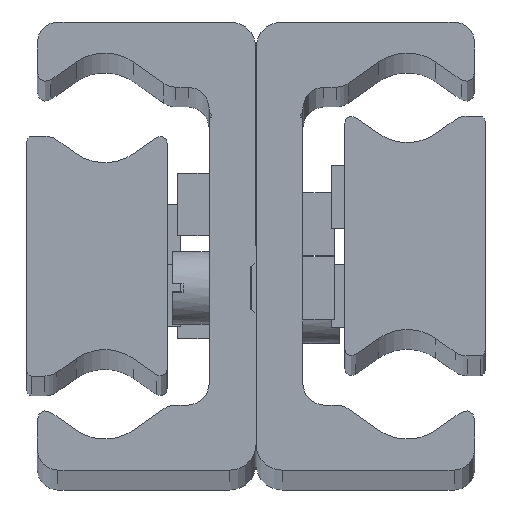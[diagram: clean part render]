
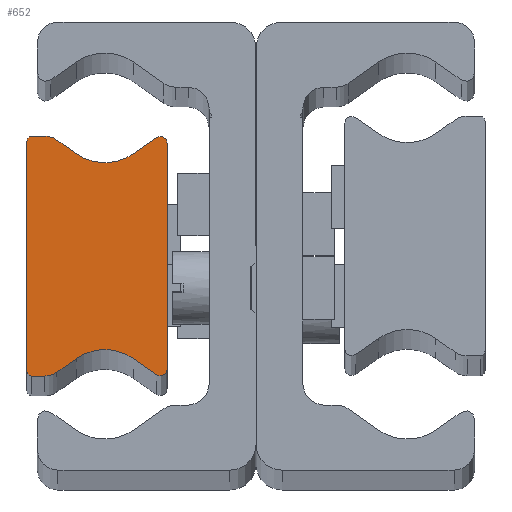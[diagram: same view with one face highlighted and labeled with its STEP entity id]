
A CAD part, top view. The second image highlights one B-rep face of the part: STEP entity #652.
In plain terms, the highlighted planar face has unit normal (0, 0, 1) as drawn and (0, 0, -1) by its records, which use the part's own axes.
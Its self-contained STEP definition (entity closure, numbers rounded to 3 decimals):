
#652 = ADVANCED_FACE( '', ( #1409 ), #1410, .F. );
#1409 = FACE_OUTER_BOUND( '', #2139, .T. );
#1410 = PLANE( '', #2140 );
#2139 = EDGE_LOOP( '', ( #3616, #3617, #3618, #3619, #3620, #3621, #3622, #3623, #3624, #3625, #3626, #3627, #3628, #3629, #3630, #3631 ) );
#2140 = AXIS2_PLACEMENT_3D( '', #3632, #3633, #3634 );
#3616 = ORIENTED_EDGE( '', *, *, #4131, .F. );
#3617 = ORIENTED_EDGE( '', *, *, #3964, .F. );
#3618 = ORIENTED_EDGE( '', *, *, #4190, .F. );
#3619 = ORIENTED_EDGE( '', *, *, #3950, .F. );
#3620 = ORIENTED_EDGE( '', *, *, #3977, .F. );
#3621 = ORIENTED_EDGE( '', *, *, #4032, .T. );
#3622 = ORIENTED_EDGE( '', *, *, #4028, .F. );
#3623 = ORIENTED_EDGE( '', *, *, #3945, .F. );
#3624 = ORIENTED_EDGE( '', *, *, #4119, .F. );
#3625 = ORIENTED_EDGE( '', *, *, #3658, .F. );
#3626 = ORIENTED_EDGE( '', *, *, #3783, .F. );
#3627 = ORIENTED_EDGE( '', *, *, #3918, .T. );
#3628 = ORIENTED_EDGE( '', *, *, #4210, .F. );
#3629 = ORIENTED_EDGE( '', *, *, #3787, .F. );
#3630 = ORIENTED_EDGE( '', *, *, #3941, .F. );
#3631 = ORIENTED_EDGE( '', *, *, #4009, .F. );
#3632 = CARTESIAN_POINT( '', ( 0.5, -11., -1090. ) );
#3633 = DIRECTION( '', ( 0., 0., 1. ) );
#3634 = DIRECTION( '', ( 1., 0., 0. ) );
#3658 = EDGE_CURVE( '', #4224, #4226, #4227, .T. );
#3783 = EDGE_CURVE( '', #4435, #4224, #4437, .T. );
#3787 = EDGE_CURVE( '', #4442, #4444, #4445, .T. );
#3918 = EDGE_CURVE( '', #4435, #4652, #4654, .T. );
#3941 = EDGE_CURVE( '', #4686, #4442, #4688, .T. );
#3945 = EDGE_CURVE( '', #4693, #4695, #4696, .T. );
#3950 = EDGE_CURVE( '', #4702, #4704, #4705, .T. );
#3964 = EDGE_CURVE( '', #4726, #4728, #4729, .T. );
#3977 = EDGE_CURVE( '', #4746, #4702, #4748, .T. );
#4009 = EDGE_CURVE( '', #4796, #4686, #4798, .T. );
#4028 = EDGE_CURVE( '', #4695, #4824, #4825, .T. );
#4032 = EDGE_CURVE( '', #4746, #4824, #4829, .T. );
#4119 = EDGE_CURVE( '', #4226, #4693, #4953, .T. );
#4131 = EDGE_CURVE( '', #4728, #4796, #4970, .T. );
#4190 = EDGE_CURVE( '', #4704, #4726, #5041, .T. );
#4210 = EDGE_CURVE( '', #4444, #4652, #5062, .T. );
#4224 = VERTEX_POINT( '', #5076 );
#4226 = VERTEX_POINT( '', #5079 );
#4227 = CIRCLE( '', #5080, 0.668 );
#4435 = VERTEX_POINT( '', #5333 );
#4437 = LINE( '', #5336, #5337 );
#4442 = VERTEX_POINT( '', #5342 );
#4444 = VERTEX_POINT( '', #5345 );
#4445 = CIRCLE( '', #5346, 2. );
#4652 = VERTEX_POINT( '', #5598 );
#4654 = CIRCLE( '', #5601, 4.763 );
#4686 = VERTEX_POINT( '', #5640 );
#4688 = LINE( '', #5643, #5644 );
#4693 = VERTEX_POINT( '', #5649 );
#4695 = VERTEX_POINT( '', #5652 );
#4696 = CIRCLE( '', #5653, 0.668 );
#4702 = VERTEX_POINT( '', #5660 );
#4704 = VERTEX_POINT( '', #5663 );
#4705 = CIRCLE( '', #5664, 2. );
#4726 = VERTEX_POINT( '', #5686 );
#4728 = VERTEX_POINT( '', #5689 );
#4729 = CIRCLE( '', #5690, 0.5 );
#4746 = VERTEX_POINT( '', #5713 );
#4748 = LINE( '', #5716, #5717 );
#4796 = VERTEX_POINT( '', #5772 );
#4798 = CIRCLE( '', #5775, 0.5 );
#4824 = VERTEX_POINT( '', #5809 );
#4825 = LINE( '', #5810, #5811 );
#4829 = CIRCLE( '', #5816, 4.763 );
#4953 = LINE( '', #5972, #5973 );
#4970 = LINE( '', #5991, #5992 );
#5041 = LINE( '', #6082, #6083 );
#5062 = LINE( '', #6109, #6110 );
#5076 = CARTESIAN_POINT( '', ( 12.449, -11.379, -1090. ) );
#5079 = CARTESIAN_POINT( '', ( 13.5, -10.832, -1090. ) );
#5080 = AXIS2_PLACEMENT_3D( '', #6125, #6126, #6127 );
#5333 = CARTESIAN_POINT( '', ( 10.232, -9.827, -1090. ) );
#5336 = CARTESIAN_POINT( '', ( 10.232, -9.827, -1090. ) );
#5337 = VECTOR( '', #6306, 1000. );
#5342 = CARTESIAN_POINT( '', ( 1.748, -11.5, -1090. ) );
#5345 = CARTESIAN_POINT( '', ( 2.895, -11.138, -1090. ) );
#5346 = AXIS2_PLACEMENT_3D( '', #6311, #6312, #6313 );
#5598 = CARTESIAN_POINT( '', ( 4.768, -9.827, -1090. ) );
#5601 = AXIS2_PLACEMENT_3D( '', #6507, #6508, #6509 );
#5640 = CARTESIAN_POINT( '', ( 0.5, -11.5, -1090. ) );
#5643 = CARTESIAN_POINT( '', ( 0.5, -11.5, -1090. ) );
#5644 = VECTOR( '', #6536, 1000. );
#5649 = CARTESIAN_POINT( '', ( 13.5, 10.832, -1090. ) );
#5652 = CARTESIAN_POINT( '', ( 12.449, 11.379, -1090. ) );
#5653 = AXIS2_PLACEMENT_3D( '', #6541, #6542, #6543 );
#5660 = CARTESIAN_POINT( '', ( 2.895, 11.138, -1090. ) );
#5663 = CARTESIAN_POINT( '', ( 1.748, 11.5, -1090. ) );
#5664 = AXIS2_PLACEMENT_3D( '', #6549, #6550, #6551 );
#5686 = CARTESIAN_POINT( '', ( 0.5, 11.5, -1090. ) );
#5689 = CARTESIAN_POINT( '', ( 0., 11., -1090. ) );
#5690 = AXIS2_PLACEMENT_3D( '', #6575, #6576, #6577 );
#5713 = CARTESIAN_POINT( '', ( 4.768, 9.827, -1090. ) );
#5716 = CARTESIAN_POINT( '', ( 4.768, 9.827, -1090. ) );
#5717 = VECTOR( '', #6591, 1000. );
#5772 = CARTESIAN_POINT( '', ( 0., -11., -1090. ) );
#5775 = AXIS2_PLACEMENT_3D( '', #6636, #6637, #6638 );
#5809 = CARTESIAN_POINT( '', ( 10.232, 9.827, -1090. ) );
#5810 = CARTESIAN_POINT( '', ( 12.449, 11.379, -1090. ) );
#5811 = VECTOR( '', #6653, 1000. );
#5816 = AXIS2_PLACEMENT_3D( '', #6658, #6659, #6660 );
#5972 = CARTESIAN_POINT( '', ( 13.5, -10.832, -1090. ) );
#5973 = VECTOR( '', #6774, 1000. );
#5991 = CARTESIAN_POINT( '', ( 0., 11., -1090. ) );
#5992 = VECTOR( '', #6791, 1000. );
#6082 = CARTESIAN_POINT( '', ( 1.748, 11.5, -1090. ) );
#6083 = VECTOR( '', #6835, 1000. );
#6109 = CARTESIAN_POINT( '', ( 2.895, -11.138, -1090. ) );
#6110 = VECTOR( '', #6847, 1000. );
#6125 = CARTESIAN_POINT( '', ( 12.832, -10.832, -1090. ) );
#6126 = DIRECTION( '', ( 0., 0., 1. ) );
#6127 = DIRECTION( '', ( 1., 0., 0. ) );
#6306 = DIRECTION( '', ( 0.819, -0.574, 0. ) );
#6311 = CARTESIAN_POINT( '', ( 1.748, -9.5, -1090. ) );
#6312 = DIRECTION( '', ( 0., 0., 1. ) );
#6313 = DIRECTION( '', ( 1., 0., 0. ) );
#6507 = CARTESIAN_POINT( '', ( 7.5, -13.729, -1090. ) );
#6508 = DIRECTION( '', ( 0., 0., 1. ) );
#6509 = DIRECTION( '', ( 1., 0., 0. ) );
#6536 = DIRECTION( '', ( 1., 0., 0. ) );
#6541 = CARTESIAN_POINT( '', ( 12.832, 10.832, -1090. ) );
#6542 = DIRECTION( '', ( 0., 0., 1. ) );
#6543 = DIRECTION( '', ( 1., 0., 0. ) );
#6549 = CARTESIAN_POINT( '', ( 1.748, 9.5, -1090. ) );
#6550 = DIRECTION( '', ( 0., 0., 1. ) );
#6551 = DIRECTION( '', ( 1., 0., 0. ) );
#6575 = CARTESIAN_POINT( '', ( 0.5, 11., -1090. ) );
#6576 = DIRECTION( '', ( 0., 0., 1. ) );
#6577 = DIRECTION( '', ( 1., 0., 0. ) );
#6591 = DIRECTION( '', ( -0.819, 0.574, 0. ) );
#6636 = CARTESIAN_POINT( '', ( 0.5, -11., -1090. ) );
#6637 = DIRECTION( '', ( 0., 0., 1. ) );
#6638 = DIRECTION( '', ( 1., 0., 0. ) );
#6653 = DIRECTION( '', ( -0.819, -0.574, 0. ) );
#6658 = CARTESIAN_POINT( '', ( 7.5, 13.729, -1090. ) );
#6659 = DIRECTION( '', ( 0., 0., 1. ) );
#6660 = DIRECTION( '', ( 1., 0., 0. ) );
#6774 = DIRECTION( '', ( 0., 1., 0. ) );
#6791 = DIRECTION( '', ( 0., -1., 0. ) );
#6835 = DIRECTION( '', ( -1., 0., 0. ) );
#6847 = DIRECTION( '', ( 0.819, 0.574, 0. ) );
